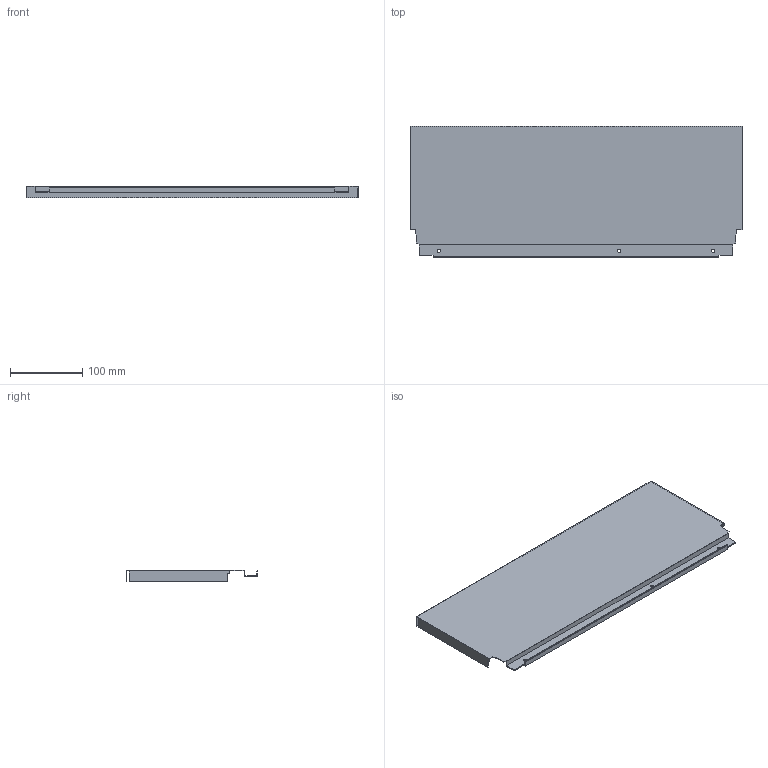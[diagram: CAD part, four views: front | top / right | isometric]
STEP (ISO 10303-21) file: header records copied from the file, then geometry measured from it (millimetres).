
FILE_DESCRIPTION (( 'STEP AP214' ), '1' );
FILE_NAME ('_DWD_XP Stahlrückwand_H182_KAB550_S19.step', '2010-07-08T12:58:06', ( 'grass' ), ( '' ), 'SwSTEP 2.0', 'SolidWorks 2010', '' );
FILE_SCHEMA (( 'AUTOMOTIVE_DESIGN' ));
Length unit declared in the file: millimetre
Products named in the file (1): _DWD_XP Stahlrückwand_H182_KAB550_S19
Bounding box: 461 x 182.49 x 16 mm (x, y, z)
Volume: 87132.8 mm3; surface area: 202413.6 mm2
Topology: 1 solids, 1 shells, 46 faces, 132 edges, 88 vertices
Faces by surface type: plane 40, cylinder 6
Entity records: 1534 total; most frequent: CARTESIAN_POINT 267, ORIENTED_EDGE 264, DIRECTION 238, EDGE_CURVE 132, VECTOR 120, LINE 120, VERTEX_POINT 88, AXIS2_PLACEMENT_3D 59
